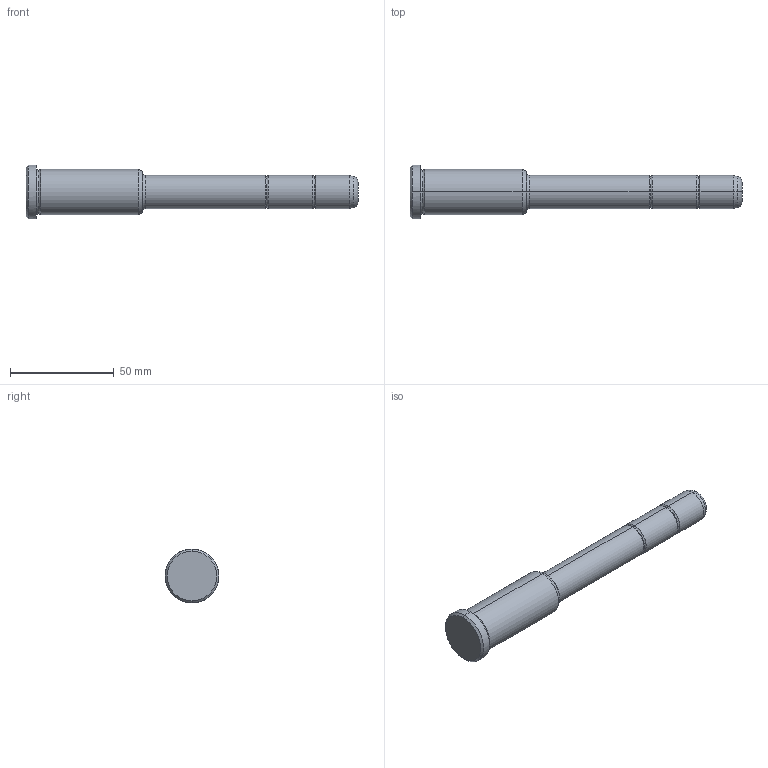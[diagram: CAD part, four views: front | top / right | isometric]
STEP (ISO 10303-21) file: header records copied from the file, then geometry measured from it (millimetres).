
FILE_DESCRIPTION(('CATIA V5 STEP Exchange'),'2;1');
FILE_NAME('C:\Users\Utente\Desktop\IO LAVORO\3D X SITO CF\X SITO\PLASTICA\351\351-16X56X160.stp','2021-08-18T11:49:08+00:00',('none'),('none'),'CATIA Version 5 Release 20 GA (IN-10)','CATIA V5 STEP AP203','none');
FILE_SCHEMA(('CONFIG_CONTROL_DESIGN'));
Length unit declared in the file: millimetre
Products named in the file (1): 351-16X56X160
Bounding box: 160 x 26 x 26 mm (x, y, z)
Volume: 42612.5 mm3; surface area: 10044.1 mm2
Topology: 1 solids, 1 shells, 36 faces, 102 edges, 70 vertices
Faces by surface type: torus 16, cylinder 10, cone 6, plane 4
Entity records: 1292 total; most frequent: CARTESIAN_POINT 321, ORIENTED_EDGE 204, DIRECTION 166, AXIS2_PLACEMENT_3D 115, EDGE_CURVE 102, CIRCLE 78, VERTEX_POINT 70, EDGE_LOOP 38
